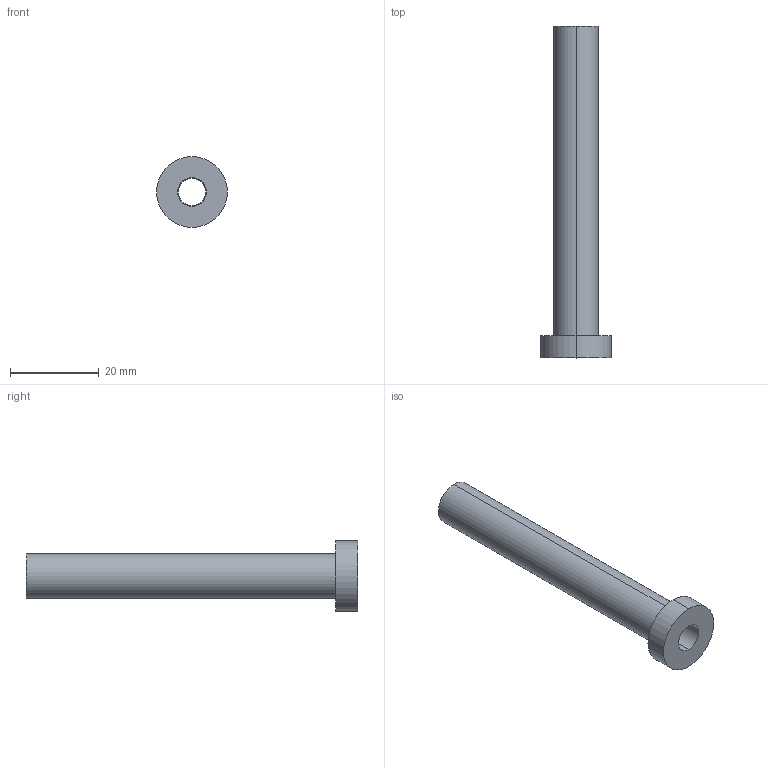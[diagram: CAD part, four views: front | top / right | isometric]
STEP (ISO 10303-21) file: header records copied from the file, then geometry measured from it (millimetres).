
FILE_DESCRIPTION (( 'STEP AP214' ), '1' );
FILE_NAME ('ET-ETN-6,2x75.STEP', '2019-12-16T17:00:02', ( 'August' ), ( '' ), 'SwSTEP 2.0', 'SolidWorks 2018', '' );
FILE_SCHEMA (( 'AUTOMOTIVE_DESIGN' ));
Length unit declared in the file: millimetre
Products named in the file (1): ET-ETN-6,2x75
Bounding box: 16 x 75 x 16 mm (x, y, z)
Volume: 4149.2 mm3; surface area: 4279.5 mm2
Topology: 1 solids, 1 shells, 13 faces, 26 edges, 16 vertices
Faces by surface type: cylinder 8, plane 3, cone 2
Entity records: 382 total; most frequent: DIRECTION 70, CARTESIAN_POINT 56, ORIENTED_EDGE 52, AXIS2_PLACEMENT_3D 30, EDGE_CURVE 26, VERTEX_POINT 16, CIRCLE 16, EDGE_LOOP 16
